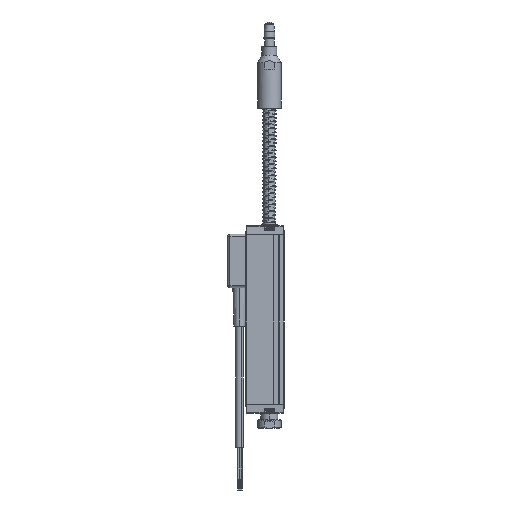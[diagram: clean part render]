
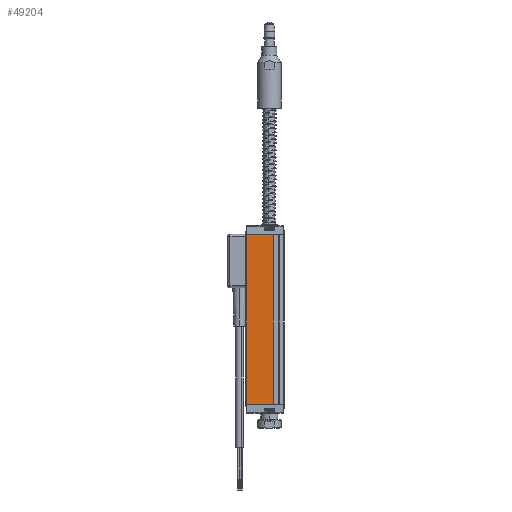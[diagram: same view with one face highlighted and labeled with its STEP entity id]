
A CAD part, left-side view. The second image highlights one B-rep face of the part: STEP entity #49204.
In plain terms, the highlighted planar face has unit normal (-1, 0, 0).
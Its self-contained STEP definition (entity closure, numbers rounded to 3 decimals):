
#36583 = PLANE('',#36584);
#36584 = AXIS2_PLACEMENT_3D('',#36585,#36586,#36587);
#36585 = CARTESIAN_POINT('',(9.,0.,-24.8));
#36586 = DIRECTION('',(0.,0.,1.));
#36587 = DIRECTION('',(-1.,0.,0.));
#36661 = PLANE('',#36662);
#36662 = AXIS2_PLACEMENT_3D('',#36663,#36664,#36665);
#36663 = CARTESIAN_POINT('',(-9.,0.,54.8));
#36664 = DIRECTION('',(0.,0.,-1.));
#36665 = DIRECTION('',(1.,0.,0.));
#36689 = CYLINDRICAL_SURFACE('',#36690,0.2);
#36690 = AXIS2_PLACEMENT_3D('',#36691,#36692,#36693);
#36691 = CARTESIAN_POINT('',(-8.8,0.2,55.));
#36692 = DIRECTION('',(0.,0.,-1.));
#36693 = DIRECTION('',(1.,0.,0.));
#40707 = VERTEX_POINT('',#40708);
#40708 = CARTESIAN_POINT('',(-9.,0.2,-24.8));
#40752 = EDGE_CURVE('',#40753,#40707,#40755,.T.);
#40753 = VERTEX_POINT('',#40754);
#40754 = CARTESIAN_POINT('',(-9.,12.8,-24.8));
#40755 = SURFACE_CURVE('',#40756,(#40760,#40767),.PCURVE_S1.);
#40756 = LINE('',#40757,#40758);
#40757 = CARTESIAN_POINT('',(-9.,0.,-24.8));
#40758 = VECTOR('',#40759,1.);
#40759 = DIRECTION('',(0.,-1.,0.));
#40760 = PCURVE('',#36583,#40761);
#40761 = DEFINITIONAL_REPRESENTATION('',(#40762),#40766);
#40762 = LINE('',#40763,#40764);
#40763 = CARTESIAN_POINT('',(18.,0.));
#40764 = VECTOR('',#40765,1.);
#40765 = DIRECTION('',(0.,1.));
#40766 = ( GEOMETRIC_REPRESENTATION_CONTEXT(2) 
PARAMETRIC_REPRESENTATION_CONTEXT() REPRESENTATION_CONTEXT('2D SPACE',''
  ) );
#40767 = PCURVE('',#40768,#40773);
#40768 = PLANE('',#40769);
#40769 = AXIS2_PLACEMENT_3D('',#40770,#40771,#40772);
#40770 = CARTESIAN_POINT('',(-9.,0.,55.));
#40771 = DIRECTION('',(-1.,0.,0.));
#40772 = DIRECTION('',(0.,1.,0.));
#40773 = DEFINITIONAL_REPRESENTATION('',(#40774),#40778);
#40774 = LINE('',#40775,#40776);
#40775 = CARTESIAN_POINT('',(0.,79.8));
#40776 = VECTOR('',#40777,1.);
#40777 = DIRECTION('',(-1.,0.));
#40778 = ( GEOMETRIC_REPRESENTATION_CONTEXT(2) 
PARAMETRIC_REPRESENTATION_CONTEXT() REPRESENTATION_CONTEXT('2D SPACE',''
  ) );
#40797 = CYLINDRICAL_SURFACE('',#40798,0.2);
#40798 = AXIS2_PLACEMENT_3D('',#40799,#40800,#40801);
#40799 = CARTESIAN_POINT('',(-8.8,12.8,55.));
#40800 = DIRECTION('',(0.,0.,-1.));
#40801 = DIRECTION('',(1.,0.,0.));
#41973 = VERTEX_POINT('',#41974);
#41974 = CARTESIAN_POINT('',(-9.,12.8,54.8));
#42018 = EDGE_CURVE('',#42019,#41973,#42021,.T.);
#42019 = VERTEX_POINT('',#42020);
#42020 = CARTESIAN_POINT('',(-9.,0.2,54.8));
#42021 = SURFACE_CURVE('',#42022,(#42026,#42033),.PCURVE_S1.);
#42022 = LINE('',#42023,#42024);
#42023 = CARTESIAN_POINT('',(-9.,0.,54.8));
#42024 = VECTOR('',#42025,1.);
#42025 = DIRECTION('',(0.,1.,0.));
#42026 = PCURVE('',#36661,#42027);
#42027 = DEFINITIONAL_REPRESENTATION('',(#42028),#42032);
#42028 = LINE('',#42029,#42030);
#42029 = CARTESIAN_POINT('',(0.,0.));
#42030 = VECTOR('',#42031,1.);
#42031 = DIRECTION('',(0.,-1.));
#42032 = ( GEOMETRIC_REPRESENTATION_CONTEXT(2) 
PARAMETRIC_REPRESENTATION_CONTEXT() REPRESENTATION_CONTEXT('2D SPACE',''
  ) );
#42033 = PCURVE('',#40768,#42034);
#42034 = DEFINITIONAL_REPRESENTATION('',(#42035),#42039);
#42035 = LINE('',#42036,#42037);
#42036 = CARTESIAN_POINT('',(0.,0.2));
#42037 = VECTOR('',#42038,1.);
#42038 = DIRECTION('',(1.,0.));
#42039 = ( GEOMETRIC_REPRESENTATION_CONTEXT(2) 
PARAMETRIC_REPRESENTATION_CONTEXT() REPRESENTATION_CONTEXT('2D SPACE',''
  ) );
#42932 = EDGE_CURVE('',#40707,#42019,#42933,.T.);
#42933 = SURFACE_CURVE('',#42934,(#42938,#42967),.PCURVE_S1.);
#42934 = LINE('',#42935,#42936);
#42935 = CARTESIAN_POINT('',(-9.,0.2,55.));
#42936 = VECTOR('',#42937,1.);
#42937 = DIRECTION('',(0.,0.,1.));
#42938 = PCURVE('',#36689,#42939);
#42939 = DEFINITIONAL_REPRESENTATION('',(#42940),#42966);
#42940 = B_SPLINE_CURVE_WITH_KNOTS('',3,(#42941,#42942,#42943,#42944,
    #42945,#42946,#42947,#42948,#42949,#42950,#42951,#42952,#42953,
    #42954,#42955,#42956,#42957,#42958,#42959,#42960,#42961,#42962,
    #42963,#42964,#42965),.UNSPECIFIED.,.F.,.F.,(4,1,1,1,1,1,1,1,1,1,1,1
    ,1,1,1,1,1,1,1,1,1,1,4),(-79.8,-76.182,-72.564,
    -68.945,-65.327,-61.709,-58.091,
    -54.473,-50.855,-47.236,-43.618,-40.
    ,-36.382,-32.764,-29.145,-25.527,
    -21.909,-18.291,-14.673,-11.055,
    -7.436,-3.818,-0.2),.UNSPECIFIED.);
#42941 = CARTESIAN_POINT('',(3.142,79.8));
#42942 = CARTESIAN_POINT('',(3.142,78.594));
#42943 = CARTESIAN_POINT('',(3.142,76.182));
#42944 = CARTESIAN_POINT('',(3.142,72.564));
#42945 = CARTESIAN_POINT('',(3.142,68.945));
#42946 = CARTESIAN_POINT('',(3.142,65.327));
#42947 = CARTESIAN_POINT('',(3.142,61.709));
#42948 = CARTESIAN_POINT('',(3.142,58.091));
#42949 = CARTESIAN_POINT('',(3.142,54.473));
#42950 = CARTESIAN_POINT('',(3.142,50.855));
#42951 = CARTESIAN_POINT('',(3.142,47.236));
#42952 = CARTESIAN_POINT('',(3.142,43.618));
#42953 = CARTESIAN_POINT('',(3.142,40.));
#42954 = CARTESIAN_POINT('',(3.142,36.382));
#42955 = CARTESIAN_POINT('',(3.142,32.764));
#42956 = CARTESIAN_POINT('',(3.142,29.145));
#42957 = CARTESIAN_POINT('',(3.142,25.527));
#42958 = CARTESIAN_POINT('',(3.142,21.909));
#42959 = CARTESIAN_POINT('',(3.142,18.291));
#42960 = CARTESIAN_POINT('',(3.142,14.673));
#42961 = CARTESIAN_POINT('',(3.142,11.055));
#42962 = CARTESIAN_POINT('',(3.142,7.436));
#42963 = CARTESIAN_POINT('',(3.142,3.818));
#42964 = CARTESIAN_POINT('',(3.142,1.406));
#42965 = CARTESIAN_POINT('',(3.142,0.2));
#42966 = ( GEOMETRIC_REPRESENTATION_CONTEXT(2) 
PARAMETRIC_REPRESENTATION_CONTEXT() REPRESENTATION_CONTEXT('2D SPACE',''
  ) );
#42967 = PCURVE('',#40768,#42968);
#42968 = DEFINITIONAL_REPRESENTATION('',(#42969),#42973);
#42969 = LINE('',#42970,#42971);
#42970 = CARTESIAN_POINT('',(0.2,0.));
#42971 = VECTOR('',#42972,1.);
#42972 = DIRECTION('',(0.,-1.));
#42973 = ( GEOMETRIC_REPRESENTATION_CONTEXT(2) 
PARAMETRIC_REPRESENTATION_CONTEXT() REPRESENTATION_CONTEXT('2D SPACE',''
  ) );
#49204 = ADVANCED_FACE('',(#49205),#40768,.T.);
#49205 = FACE_BOUND('',#49206,.T.);
#49206 = EDGE_LOOP('',(#49207,#49208,#49209,#49252));
#49207 = ORIENTED_EDGE('',*,*,#42932,.T.);
#49208 = ORIENTED_EDGE('',*,*,#42018,.T.);
#49209 = ORIENTED_EDGE('',*,*,#49210,.T.);
#49210 = EDGE_CURVE('',#41973,#40753,#49211,.T.);
#49211 = SURFACE_CURVE('',#49212,(#49216,#49223),.PCURVE_S1.);
#49212 = LINE('',#49213,#49214);
#49213 = CARTESIAN_POINT('',(-9.,12.8,-25.));
#49214 = VECTOR('',#49215,1.);
#49215 = DIRECTION('',(0.,0.,-1.));
#49216 = PCURVE('',#40768,#49217);
#49217 = DEFINITIONAL_REPRESENTATION('',(#49218),#49222);
#49218 = LINE('',#49219,#49220);
#49219 = CARTESIAN_POINT('',(12.8,80.));
#49220 = VECTOR('',#49221,1.);
#49221 = DIRECTION('',(0.,1.));
#49222 = ( GEOMETRIC_REPRESENTATION_CONTEXT(2) 
PARAMETRIC_REPRESENTATION_CONTEXT() REPRESENTATION_CONTEXT('2D SPACE',''
  ) );
#49223 = PCURVE('',#40797,#49224);
#49224 = DEFINITIONAL_REPRESENTATION('',(#49225),#49251);
#49225 = B_SPLINE_CURVE_WITH_KNOTS('',3,(#49226,#49227,#49228,#49229,
    #49230,#49231,#49232,#49233,#49234,#49235,#49236,#49237,#49238,
    #49239,#49240,#49241,#49242,#49243,#49244,#49245,#49246,#49247,
    #49248,#49249,#49250),.UNSPECIFIED.,.F.,.F.,(4,1,1,1,1,1,1,1,1,1,1,1
    ,1,1,1,1,1,1,1,1,1,1,4),(-79.8,-76.182,-72.564,
    -68.945,-65.327,-61.709,-58.091,
    -54.473,-50.855,-47.236,-43.618,-40.
    ,-36.382,-32.764,-29.145,-25.527,
    -21.909,-18.291,-14.673,-11.055,
    -7.436,-3.818,-0.2),.UNSPECIFIED.);
#49226 = CARTESIAN_POINT('',(3.142,0.2));
#49227 = CARTESIAN_POINT('',(3.142,1.406));
#49228 = CARTESIAN_POINT('',(3.142,3.818));
#49229 = CARTESIAN_POINT('',(3.142,7.436));
#49230 = CARTESIAN_POINT('',(3.142,11.055));
#49231 = CARTESIAN_POINT('',(3.142,14.673));
#49232 = CARTESIAN_POINT('',(3.142,18.291));
#49233 = CARTESIAN_POINT('',(3.142,21.909));
#49234 = CARTESIAN_POINT('',(3.142,25.527));
#49235 = CARTESIAN_POINT('',(3.142,29.145));
#49236 = CARTESIAN_POINT('',(3.142,32.764));
#49237 = CARTESIAN_POINT('',(3.142,36.382));
#49238 = CARTESIAN_POINT('',(3.142,40.));
#49239 = CARTESIAN_POINT('',(3.142,43.618));
#49240 = CARTESIAN_POINT('',(3.142,47.236));
#49241 = CARTESIAN_POINT('',(3.142,50.855));
#49242 = CARTESIAN_POINT('',(3.142,54.473));
#49243 = CARTESIAN_POINT('',(3.142,58.091));
#49244 = CARTESIAN_POINT('',(3.142,61.709));
#49245 = CARTESIAN_POINT('',(3.142,65.327));
#49246 = CARTESIAN_POINT('',(3.142,68.945));
#49247 = CARTESIAN_POINT('',(3.142,72.564));
#49248 = CARTESIAN_POINT('',(3.142,76.182));
#49249 = CARTESIAN_POINT('',(3.142,78.594));
#49250 = CARTESIAN_POINT('',(3.142,79.8));
#49251 = ( GEOMETRIC_REPRESENTATION_CONTEXT(2) 
PARAMETRIC_REPRESENTATION_CONTEXT() REPRESENTATION_CONTEXT('2D SPACE',''
  ) );
#49252 = ORIENTED_EDGE('',*,*,#40752,.T.);
